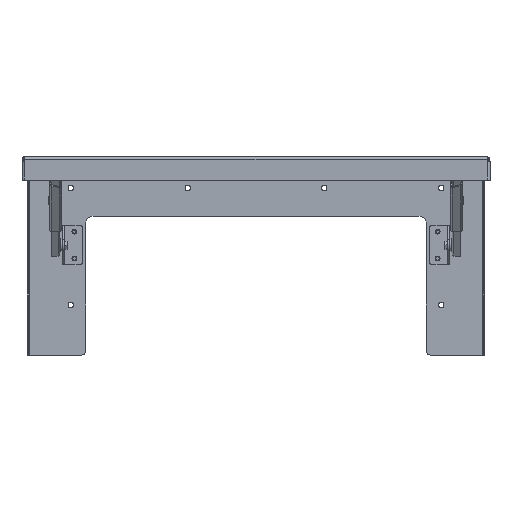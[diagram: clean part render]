
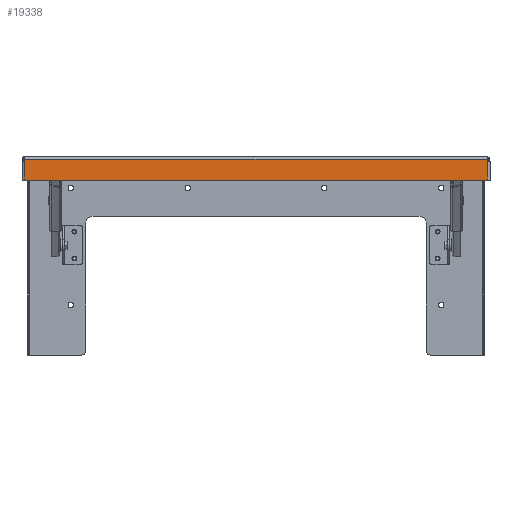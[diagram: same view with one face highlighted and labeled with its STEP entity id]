
A CAD part, top view. The second image highlights one B-rep face of the part: STEP entity #19338.
In plain terms, the highlighted planar face has unit normal (0, 0, 1) as drawn and (0, -1, 0) by its records, which use the part's own axes.
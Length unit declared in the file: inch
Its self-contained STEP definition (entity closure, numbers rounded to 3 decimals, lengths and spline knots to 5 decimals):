
#204 = CARTESIAN_POINT ( 'NONE',  ( 11.86839, -11.94, 0.197 ) ) ;
#205 = DIRECTION ( 'NONE',  ( 0., 0., 1. ) ) ;
#217 = CARTESIAN_POINT ( 'NONE',  ( -11.91386, -11.94, 0.197 ) ) ;
#218 = DIRECTION ( 'NONE',  ( 1., 0., 0. ) ) ;
#219 = CARTESIAN_POINT ( 'NONE',  ( -11.86839, -11.94, 1.192 ) ) ;
#222 = DIRECTION ( 'NONE',  ( 0., 0., -1. ) ) ;
#223 = CARTESIAN_POINT ( 'NONE',  ( -11.868, -11.94, 1.192 ) ) ;
#224 = DIRECTION ( 'NONE',  ( -1., 0., 0. ) ) ;
#235 = CARTESIAN_POINT ( 'NONE',  ( 11.91386, -11.94, 0.197 ) ) ;
#236 = DIRECTION ( 'NONE',  ( -1., 0., 0. ) ) ;
#243 = CARTESIAN_POINT ( 'NONE',  ( -11.91386, -11.94, 0.132 ) ) ;
#246 = DIRECTION ( 'NONE',  ( 0., 0., 1. ) ) ;
#269 = CARTESIAN_POINT ( 'NONE',  ( 11.91386, -11.94, 0.132 ) ) ;
#270 = DIRECTION ( 'NONE',  ( 0., 0., 1. ) ) ;
#271 = CARTESIAN_POINT ( 'NONE',  ( -11.868, -11.94, 0.132 ) ) ;
#272 = DIRECTION ( 'NONE',  ( -1., 0., 0. ) ) ;
#9631 = CARTESIAN_POINT ( 'NONE',  ( -11.91386, -11.94, 0.197 ) ) ;
#9687 = CARTESIAN_POINT ( 'NONE',  ( 11.91386, -11.94, 0.197 ) ) ;
#9717 = CARTESIAN_POINT ( 'NONE',  ( -11.91386, -11.94, 0.132 ) ) ;
#9736 = CARTESIAN_POINT ( 'NONE',  ( 11.91386, -11.94, 0.132 ) ) ;
#10737 = ORIENTED_EDGE ( 'NONE', *, *, #15712, .F. ) ;
#10738 = ORIENTED_EDGE ( 'NONE', *, *, #15711, .T. ) ;
#10739 = ORIENTED_EDGE ( 'NONE', *, *, #15702, .T. ) ;
#10740 = ORIENTED_EDGE ( 'NONE', *, *, #15690, .T. ) ;
#10741 = ORIENTED_EDGE ( 'NONE', *, *, #15696, .T. ) ;
#10742 = ORIENTED_EDGE ( 'NONE', *, *, #15695, .T. ) ;
#10743 = ORIENTED_EDGE ( 'NONE', *, *, #15693, .F. ) ;
#10744 = ORIENTED_EDGE ( 'NONE', *, *, #15707, .F. ) ;
#11754 = LINE ( 'NONE', #204, #11755 ) ;
#11755 = VECTOR ( 'NONE', #205, 39.37008 ) ;
#11757 = LINE ( 'NONE', #217, #11758 ) ;
#11758 = VECTOR ( 'NONE', #218, 39.37008 ) ;
#11762 = LINE ( 'NONE', #219, #11765 ) ;
#11764 = VECTOR ( 'NONE', #270, 39.37008 ) ;
#11765 = VECTOR ( 'NONE', #222, 39.37008 ) ;
#11767 = LINE ( 'NONE', #223, #11768 ) ;
#11768 = VECTOR ( 'NONE', #224, 39.37008 ) ;
#11779 = LINE ( 'NONE', #235, #11780 ) ;
#11780 = VECTOR ( 'NONE', #236, 39.37008 ) ;
#11783 = LINE ( 'NONE', #243, #11787 ) ;
#11786 = LINE ( 'NONE', #269, #11764 ) ;
#11787 = VECTOR ( 'NONE', #246, 39.37008 ) ;
#11791 = LINE ( 'NONE', #271, #11792 ) ;
#11792 = VECTOR ( 'NONE', #272, 39.37008 ) ;
#11931 = CARTESIAN_POINT ( 'NONE',  ( -11.86839, -11.94, 0.197 ) ) ;
#11949 = CARTESIAN_POINT ( 'NONE',  ( 11.86839, -11.94, 0.197 ) ) ;
#12022 = CARTESIAN_POINT ( 'NONE',  ( -11.86839, -11.94, 1.192 ) ) ;
#12027 = CARTESIAN_POINT ( 'NONE',  ( 11.86839, -11.94, 1.192 ) ) ;
#13317 = VERTEX_POINT ( 'NONE', #11931 ) ;
#13327 = VERTEX_POINT ( 'NONE', #11949 ) ;
#13369 = VERTEX_POINT ( 'NONE', #12022 ) ;
#13374 = VERTEX_POINT ( 'NONE', #12027 ) ;
#13916 = FACE_OUTER_BOUND ( 'NONE', #15884, .T. ) ;
#14723 = VERTEX_POINT ( 'NONE', #9631 ) ;
#14779 = VERTEX_POINT ( 'NONE', #9687 ) ;
#14809 = VERTEX_POINT ( 'NONE', #9717 ) ;
#14828 = VERTEX_POINT ( 'NONE', #9736 ) ;
#15690 = EDGE_CURVE ( 'NONE', #13327, #13374, #11754, .T. ) ;
#15693 = EDGE_CURVE ( 'NONE', #14723, #13317, #11757, .T. ) ;
#15695 = EDGE_CURVE ( 'NONE', #13369, #13317, #11762, .T. ) ;
#15696 = EDGE_CURVE ( 'NONE', #13374, #13369, #11767, .T. ) ;
#15702 = EDGE_CURVE ( 'NONE', #14779, #13327, #11779, .T. ) ;
#15707 = EDGE_CURVE ( 'NONE', #14809, #14723, #11783, .T. ) ;
#15711 = EDGE_CURVE ( 'NONE', #14828, #14779, #11786, .T. ) ;
#15712 = EDGE_CURVE ( 'NONE', #14828, #14809, #11791, .T. ) ;
#15884 = EDGE_LOOP ( 'NONE', ( #10737, #10738, #10739, #10740, #10741, #10742, #10743, #10744 ) ) ;
#17324 = CARTESIAN_POINT ( 'NONE',  ( -11.868, -11.94, 1.192 ) ) ;
#17325 = PLANE ( 'NONE',  #20539 ) ;
#17330 = DIRECTION ( 'NONE',  ( 0., 1., 0. ) ) ;
#17331 = DIRECTION ( 'NONE',  ( 0., 0., 1. ) ) ;
#19338 = ADVANCED_FACE ( 'NONE', ( #13916 ), #17325, .F. ) ;
#20539 = AXIS2_PLACEMENT_3D ( 'NONE', #17324, #17330, #17331 ) ;
